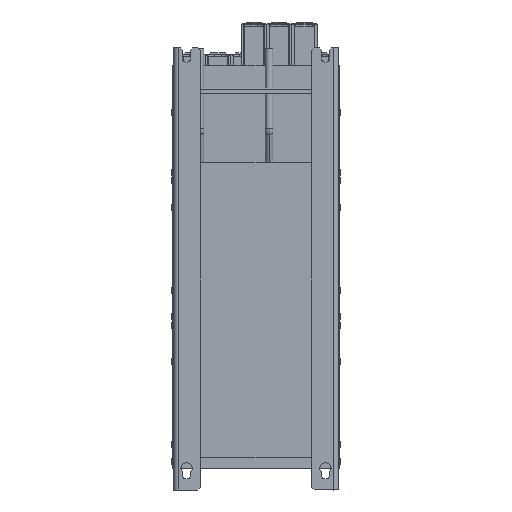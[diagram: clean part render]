
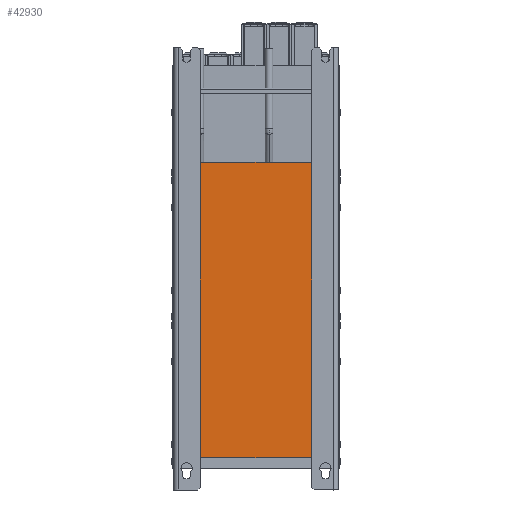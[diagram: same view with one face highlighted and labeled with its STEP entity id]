
A CAD part, front view. The second image highlights one B-rep face of the part: STEP entity #42930.
In plain terms, the highlighted planar face has unit normal (0, -1, 0).
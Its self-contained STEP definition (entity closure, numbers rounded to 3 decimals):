
#1305 = VECTOR ( 'NONE', #49530, 1000. ) ;
#2335 = ORIENTED_EDGE ( 'NONE', *, *, #71609, .T. ) ;
#2589 = DIRECTION ( 'NONE',  ( -1., 0., 0. ) ) ;
#3038 = FACE_OUTER_BOUND ( 'NONE', #91990, .T. ) ;
#10516 = EDGE_CURVE ( 'NONE', #20596, #53617, #59468, .T. ) ;
#11127 = LINE ( 'NONE', #39543, #67361 ) ;
#11664 = CARTESIAN_POINT ( 'NONE',  ( -159., 0., 0. ) ) ;
#14444 = ORIENTED_EDGE ( 'NONE', *, *, #10516, .T. ) ;
#15381 = VERTEX_POINT ( 'NONE', #19641 ) ;
#17509 = DIRECTION ( 'NONE',  ( 1., 0., 0. ) ) ;
#19310 = CARTESIAN_POINT ( 'NONE',  ( -159., 0., 582.5 ) ) ;
#19641 = CARTESIAN_POINT ( 'NONE',  ( 159., 0., 585. ) ) ;
#20596 = VERTEX_POINT ( 'NONE', #11664 ) ;
#34568 = ORIENTED_EDGE ( 'NONE', *, *, #41614, .T. ) ;
#35523 = LINE ( 'NONE', #76595, #1305 ) ;
#39543 = CARTESIAN_POINT ( 'NONE',  ( 163., 0., 585. ) ) ;
#39998 = VERTEX_POINT ( 'NONE', #74208 ) ;
#41614 = EDGE_CURVE ( 'NONE', #39998, #20596, #90091, .T. ) ;
#42930 = ADVANCED_FACE ( 'NONE', ( #3038 ), #72895, .F. ) ;
#49530 = DIRECTION ( 'NONE',  ( 0., 0., 1. ) ) ;
#53617 = VERTEX_POINT ( 'NONE', #80297 ) ;
#56782 = VECTOR ( 'NONE', #75703, 1000. ) ;
#57045 = AXIS2_PLACEMENT_3D ( 'NONE', #79884, #66350, #2589 ) ;
#59468 = LINE ( 'NONE', #59923, #81535 ) ;
#59923 = CARTESIAN_POINT ( 'NONE',  ( 163., 0., 0. ) ) ;
#65406 = EDGE_CURVE ( 'NONE', #15381, #39998, #11127, .T. ) ;
#66350 = DIRECTION ( 'NONE',  ( 0., 1., 0. ) ) ;
#67361 = VECTOR ( 'NONE', #67983, 1000. ) ;
#67983 = DIRECTION ( 'NONE',  ( -1., 0., 0. ) ) ;
#71609 = EDGE_CURVE ( 'NONE', #53617, #15381, #35523, .T. ) ;
#72895 = PLANE ( 'NONE',  #57045 ) ;
#74208 = CARTESIAN_POINT ( 'NONE',  ( -159., 0., 585. ) ) ;
#75703 = DIRECTION ( 'NONE',  ( 0., 0., -1. ) ) ;
#76595 = CARTESIAN_POINT ( 'NONE',  ( 159., 0., 912.116 ) ) ;
#79884 = CARTESIAN_POINT ( 'NONE',  ( 163., 0., 912.116 ) ) ;
#80297 = CARTESIAN_POINT ( 'NONE',  ( 159., 0., 0. ) ) ;
#81535 = VECTOR ( 'NONE', #17509, 1000. ) ;
#86508 = ORIENTED_EDGE ( 'NONE', *, *, #65406, .T. ) ;
#90091 = LINE ( 'NONE', #19310, #56782 ) ;
#91990 = EDGE_LOOP ( 'NONE', ( #14444, #2335, #86508, #34568 ) ) ;
